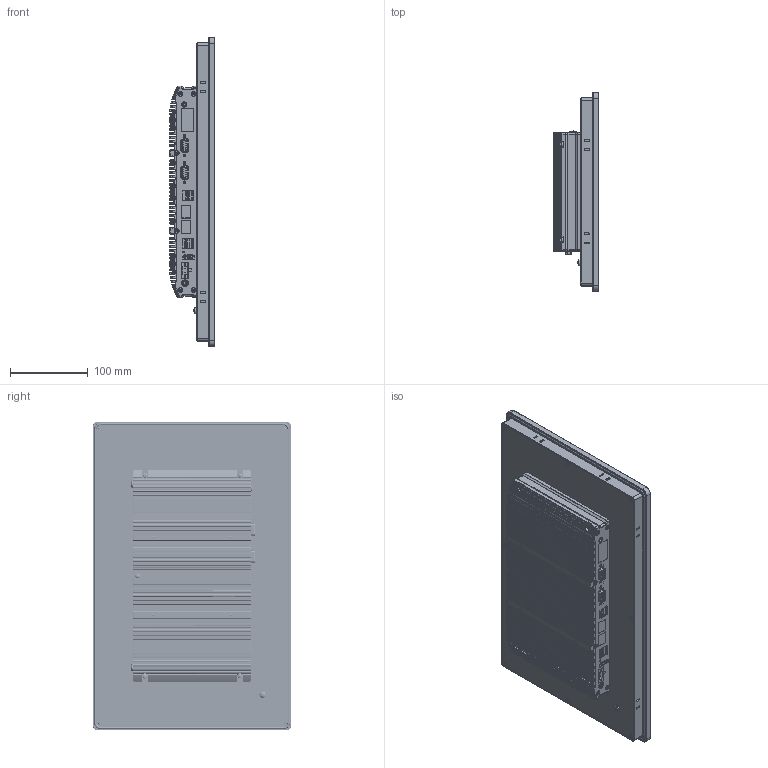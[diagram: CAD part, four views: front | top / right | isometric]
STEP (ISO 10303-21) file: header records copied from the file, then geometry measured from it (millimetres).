
FILE_DESCRIPTION((''),'2;1');
FILE_NAME('FPM-1506-20250228','2025-08-02T22:58:14',('anthony'),(''),'CREO PARAMETRIC BY PTC INC, 2024063','CREO PARAMETRIC BY PTC INC, 2024063','');
FILE_SCHEMA(('CONFIG_CONTROL_DESIGN','SHAPE_APPEARANCE_LAYERS_GROUPS'));
Products named in the file (1): FPM-1506-20250228
Bounding box: 58.18 x 255 x 397 mm (x, y, z)
Volume: 2154753.3 mm3; surface area: 608499.7 mm2
Topology: 34 solids, 76 shells, 6756 faces, 21516 edges, 14840 vertices
Faces by surface type: plane 3670, cylinder 2737, cone 176, torus 100, bspline 54, sphere 15, revolution 4
Entity records: 298860 total; most frequent: CARTESIAN_POINT 56257, ORIENTED_EDGE 42109, DIRECTION 39235, EDGE_CURVE 21473, VERTEX_POINT 14841, PRESENTATION_STYLE_ASSIGNMENT 14469, STYLED_ITEM 14102, AXIS2_PLACEMENT_3D 13551
